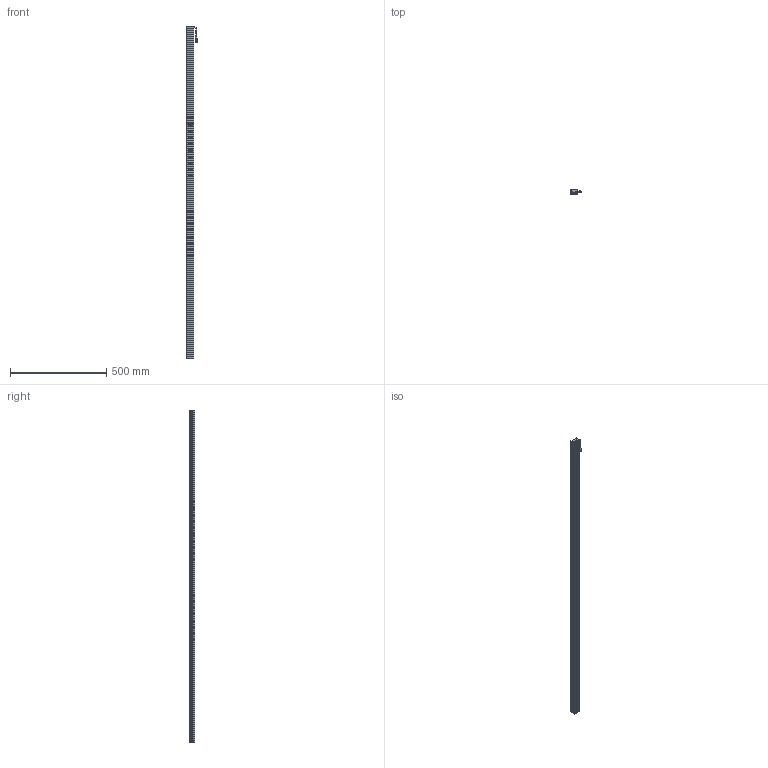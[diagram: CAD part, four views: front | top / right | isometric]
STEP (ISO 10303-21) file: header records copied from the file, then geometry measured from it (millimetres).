
FILE_DESCRIPTION (( 'STEP AP203' ), '1' );
FILE_NAME ('CK-BL172238.STEP', '2026-01-30T02:47:48', ( '' ), ( '' ), 'SwSTEP 2.0', 'SolidWorks 2022', '' );
FILE_SCHEMA (( 'CONFIG_CONTROL_DESIGN' ));
Length unit declared in the file: millimetre
Products named in the file (6): CK-BL172238-002A; CK-BL172238; 十字沉头螺丝 M2x10; CK-BL172238-003A; CK172238-001A; 光源线
Assembly tree (11 placements, depth 2):
  CK-BL172238
    CK172238-001A
    CK-BL172238-002A  x2
    CK-BL172238-003A
    光源线
    十字沉头螺丝 M2x10  x6
Bounding box: 55.84 x 27 x 1722 mm (x, y, z)
Volume: 687831.3 mm3; surface area: 592388.6 mm2
Topology: 13 solids, 13 shells, 641 faces, 1692 edges, 1082 vertices
Faces by surface type: plane 353, cylinder 210, cone 46, bspline 32
Entity records: 16373 total; most frequent: CARTESIAN_POINT 3399, ORIENTED_EDGE 2598, DIRECTION 2515, EDGE_CURVE 1299, VECTOR 875, LINE 875, VERTEX_POINT 846, AXIS2_PLACEMENT_3D 820
